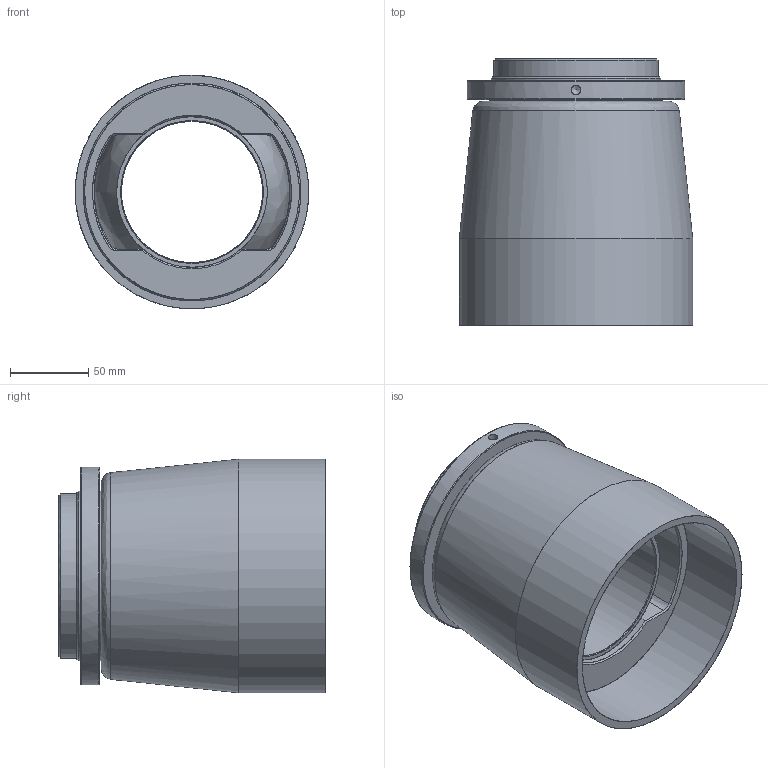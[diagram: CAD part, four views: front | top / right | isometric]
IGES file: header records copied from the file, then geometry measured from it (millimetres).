
Start section: Missler Software 3 rue Hermes, EUROPARC, 31520 Ramonville-Saint-Agne, France Tel   : +33 (0)5 61 00 03 00 Fax   : +33 (0)5 61 00 03 03 Email : sup.solid@topsolid.com
Global section: file name: Z:\J\Jp3\Palier\Palier-type1\3D TopSolid 2011\Serie 10.xx.xx\10.14.xx\10.14.09.igs; native system: TopSolid v611200 Missler Software; preprocessor: IGES preprocessor v100000; author: TAPIN; date: 120223.143141; units: millimetre
Bounding box: 149 x 169.98 x 149 mm (x, y, z)
Surface area: 314569.1 mm2 (no closed solid volume)
Topology: 0 solids, 0 shells, 68 faces, 1111 edges, 1087 vertices
Faces by surface type: bspline 68
